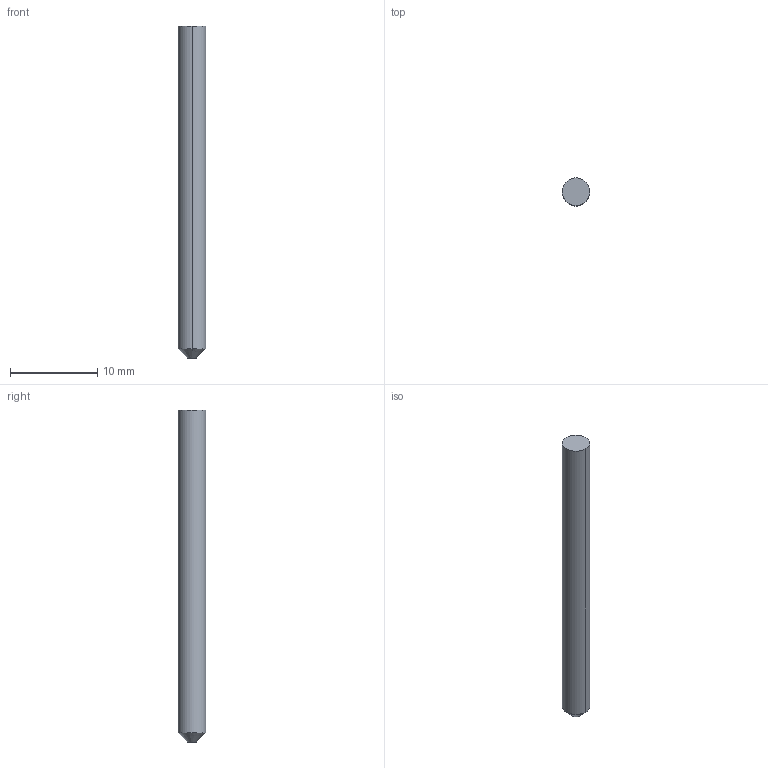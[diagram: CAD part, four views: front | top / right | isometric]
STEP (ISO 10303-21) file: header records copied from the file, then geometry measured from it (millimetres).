
FILE_DESCRIPTION((' '),'2;1');
FILE_NAME( '3HC012503B.stp', '2026-01-21T09:07:53', (' '), ('--- Datakit www.datakit.com---'), ' Datakit CrossCadWare V2025.4 Sep 19 2025', 'Mastercam 2027', ' ');
FILE_SCHEMA(('AUTOMOTIVE_DESIGN { 1 0 10303 214 1 1 1 1 }'));
Length unit declared in the file: inch
Products named in the file (1): 3HC012503B
Bounding box: 3.17 x 3.17 x 38.1 mm (x, y, z)
Volume: 297.2 mm3; surface area: 388 mm2
Topology: 1 solids, 1 shells, 8 faces, 14 edges, 8 vertices
Faces by surface type: cylinder 4, plane 2, cone 2
Entity records: 264 total; most frequent: DIRECTION 48, CARTESIAN_POINT 35, ORIENTED_EDGE 28, AXIS2_PLACEMENT_3D 21, EDGE_CURVE 14, VERTEX_POINT 8, CIRCLE 8, EDGE_LOOP 8
